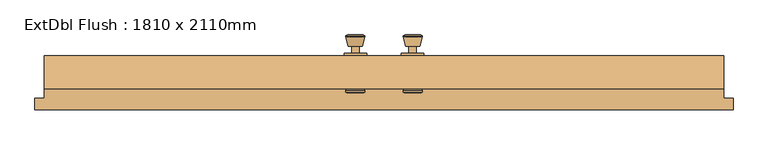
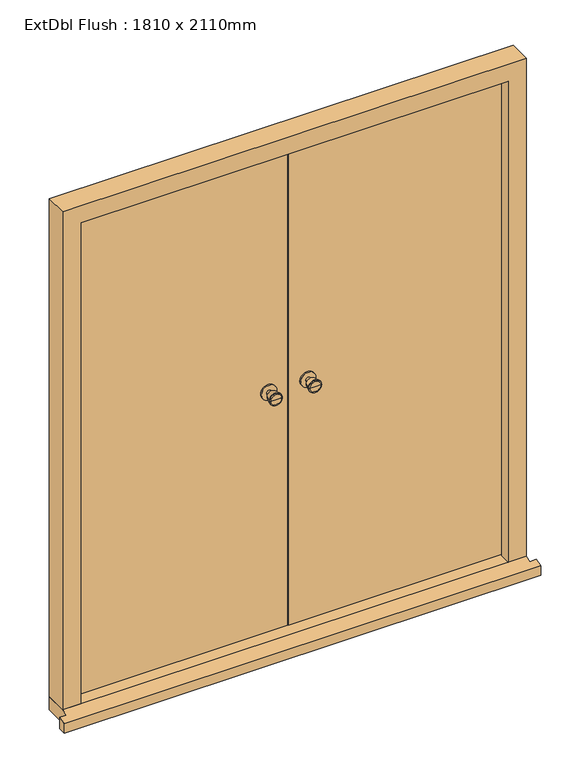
"""IFC4 building model written with IfcOpenShell, lengths in millimetres: door geometry, ExtDbl Flush : 1810 x 2110mm."""

from ifc_helpers import new_model, si_unit, point, frame, frame_2d, origin, place, context, project, spatial, polyline, circle_curve, trimmed, segment, composite_curve, outline, extrude, faceted_brep, source, transform, mapped, element, save
from ifc_brep_helpers import plane_surface, cylinder_surface, revolved_surface, advanced_brep


def extdbl_flush_1810_x_2110mm_182ebfd7(model_context):
    return source(origin(), model_context, "Body", "SolidModel", [
        advanced_brep(
        [(-76.5, 57.5, 1050.0), (-86.5, 57.5, 1050.0), (-66.5, 57.5, 1050.0), (-96.9758676, 106.5, 1050.0), (-76.5, 106.5, 1050.0), (-56.0241324, 106.5, 1050.0), (-101.5, 104.6721319, 1050.0), (-51.5, 104.6721319, 1050.0), (-101.5, 101.2084537, 1050.0), (-51.5, 101.2084537, 1050.0), (-95.136236, 76.5, 1050.0), (-57.863764, 76.5, 1050.0), (-86.5, 76.5, 1050.0), (-66.5, 76.5, 1050.0)],
        [
            (0, 1),
            (1, 2, circle_curve(frame((-76.5, 57.5, 1050.0), z_axis=(0.0, -1.0, 0.0), x_axis=(1.0, 0.0, 0.0)), 10.0)),
            (2, 0),
            (2, 1, circle_curve(frame((-76.5, 57.5, 1050.0), z_axis=(0.0, -1.0, 0.0), x_axis=(1.0, 0.0, 0.0)), 10.0)),
            (3, 4),
            (4, 5),
            (5, 3, circle_curve(frame((-76.5, 106.5, 1050.0), z_axis=(0.0, 1.0, 0.0), x_axis=(1.0, 0.0, 0.0)), 20.4758676)),
            (3, 5, circle_curve(frame((-76.5, 106.5, 1050.0), z_axis=(0.0, 1.0, 0.0), x_axis=(1.0, 0.0, 0.0)), 20.4758676)),
            (6, 3),
            (5, 7),
            (7, 6, circle_curve(frame((-76.5, 104.6721319, 1050.0), z_axis=(0.0, 1.0, 0.0), x_axis=(1.0, 0.0, 0.0)), 25.0)),
            (6, 7, circle_curve(frame((-76.5, 104.6721319, 1050.0), z_axis=(0.0, 1.0, 0.0), x_axis=(1.0, 0.0, 0.0)), 25.0)),
            (8, 6),
            (7, 9),
            (9, 8, circle_curve(frame((-76.5, 101.2084537, 1050.0), z_axis=(0.0, 1.0, 0.0), x_axis=(1.0, 0.0, 0.0)), 25.0)),
            (8, 9, circle_curve(frame((-76.5, 101.2084537, 1050.0), z_axis=(0.0, 1.0, 0.0), x_axis=(1.0, 0.0, 0.0)), 25.0)),
            (10, 8),
            (9, 11),
            (11, 10, circle_curve(frame((-76.5, 76.5, 1050.0), z_axis=(0.0, 1.0, 0.0), x_axis=(1.0, 0.0, 0.0)), 18.636236)),
            (10, 11, circle_curve(frame((-76.5, 76.5, 1050.0), z_axis=(0.0, 1.0, 0.0), x_axis=(1.0, 0.0, 0.0)), 18.636236)),
            (12, 10),
            (11, 13),
            (13, 12, circle_curve(frame((-76.5, 76.5, 1050.0), z_axis=(0.0, 1.0, 0.0), x_axis=(1.0, 0.0, 0.0)), 10.0)),
            (12, 13, circle_curve(frame((-76.5, 76.5, 1050.0), z_axis=(0.0, 1.0, 0.0), x_axis=(1.0, 0.0, 0.0)), 10.0)),
            (1, 12),
            (13, 2),
        ],
        [
            plane_surface(frame((-76.5, 57.5, 1050.0), z_axis=(0.0, -1.0, 0.0), x_axis=(1.0, 0.0, 0.0))),
            plane_surface(frame((-76.5, 106.5, 1050.0), z_axis=(0.0, 1.0, 0.0), x_axis=(1.0, 0.0, 0.0))),
            revolved_surface(polyline([(-56.0241324, 106.5, 1050.0), (-51.5, 104.6721319, 1050.0)]), (-76.5, 57.5, 1050.0), (0.0, -1.0, 0.0)),
            cylinder_surface(frame((-76.5, 57.5, 1050.0), z_axis=(0.0, -1.0, 0.0), x_axis=(1.0, 0.0, 0.0)), 25.0),
            revolved_surface(polyline([(-51.5, 101.2084537, 1050.0), (-57.863764, 76.5, 1050.0)]), (-76.5, 57.5, 1050.0), (0.0, -1.0, 0.0)),
            plane_surface(frame((-76.5, 76.5, 1050.0), z_axis=(0.0, -1.0, 0.0), x_axis=(1.0, 0.0, 0.0))),
            cylinder_surface(frame((-76.5, 57.5, 1050.0), z_axis=(0.0, -1.0, 0.0), x_axis=(1.0, 0.0, 0.0)), 10.0),
        ],
        [
            (0, [[1, 2, 3]]),
            (0, [[-3, 4, -1]]),
            (1, [[5, 6, 7]]),
            (1, [[-6, -5, 8]]),
            (2, [[9, -7, 10, 11]]),
            (2, [[-10, -8, -9, 12]]),
            (3, [[13, -11, 14, 15]]),
            (3, [[-14, -12, -13, 16]]),
            (4, [[17, -15, 18, 19]]),
            (4, [[-18, -16, -17, 20]]),
            (5, [[21, -19, 22, 23]]),
            (5, [[-22, -20, -21, 24]]),
            (6, [[25, -23, 26, -2]]),
            (6, [[-26, -24, -25, -4]]),
        ],
    ),
        extrude(outline(composite_curve([segment(trimmed(circle_curve(frame_2d((1050.0, -76.5)), 30.0), [point((1050.0, -46.5))], [point((1050.0, -106.5))], False, "CARTESIAN"), True, "CONTINUOUS"), segment(trimmed(circle_curve(frame_2d((1050.0, -76.5)), 30.0), [point((1050.0, -106.5))], [point((1050.0, -46.5))], False, "CARTESIAN"), True, "CONTINUOUS")], self_intersect=False)), frame((0.0, 51.5, 0.0), z_axis=(0.0, 1.0, 0.0), x_axis=(0.0, 0.0, 1.0)), (0.0, 0.0, 1.0), 6.0),
        advanced_brep(
        [(-76.5, 1.5, 1050.0), (-66.5, 1.5, 1050.0), (-86.5, 1.5, 1050.0), (-96.9758676, -47.5, 1050.0), (-56.0241324, -47.5, 1050.0), (-76.5, -47.5, 1050.0), (-101.5, -45.6721319, 1050.0), (-51.5, -45.6721319, 1050.0), (-101.5, -42.2084537, 1050.0), (-51.5, -42.2084537, 1050.0), (-95.136236, -17.5, 1050.0), (-57.863764, -17.5, 1050.0), (-86.5, -17.5, 1050.0), (-66.5, -17.5, 1050.0)],
        [
            (0, 1),
            (1, 2, circle_curve(frame((-76.5, 1.5, 1050.0), z_axis=(0.0, 1.0, 0.0), x_axis=(1.0, 0.0, 0.0)), 10.0)),
            (2, 0),
            (2, 1, circle_curve(frame((-76.5, 1.5, 1050.0), z_axis=(0.0, 1.0, 0.0), x_axis=(1.0, 0.0, 0.0)), 10.0)),
            (3, 4, circle_curve(frame((-76.5, -47.5, 1050.0), z_axis=(0.0, -1.0, 0.0), x_axis=(1.0, 0.0, 0.0)), 20.4758676)),
            (4, 5),
            (5, 3),
            (4, 3, circle_curve(frame((-76.5, -47.5, 1050.0), z_axis=(0.0, -1.0, 0.0), x_axis=(1.0, 0.0, 0.0)), 20.4758676)),
            (6, 7, circle_curve(frame((-76.5, -45.6721319, 1050.0), z_axis=(0.0, -1.0, 0.0), x_axis=(1.0, 0.0, 0.0)), 25.0)),
            (7, 4),
            (3, 6),
            (7, 6, circle_curve(frame((-76.5, -45.6721319, 1050.0), z_axis=(0.0, -1.0, 0.0), x_axis=(1.0, 0.0, 0.0)), 25.0)),
            (8, 9, circle_curve(frame((-76.5, -42.2084537, 1050.0), z_axis=(0.0, -1.0, 0.0), x_axis=(1.0, 0.0, 0.0)), 25.0)),
            (9, 7),
            (6, 8),
            (9, 8, circle_curve(frame((-76.5, -42.2084537, 1050.0), z_axis=(0.0, -1.0, 0.0), x_axis=(1.0, 0.0, 0.0)), 25.0)),
            (10, 11, circle_curve(frame((-76.5, -17.5, 1050.0), z_axis=(0.0, -1.0, 0.0), x_axis=(1.0, 0.0, 0.0)), 18.636236)),
            (11, 9),
            (8, 10),
            (11, 10, circle_curve(frame((-76.5, -17.5, 1050.0), z_axis=(0.0, -1.0, 0.0), x_axis=(1.0, 0.0, 0.0)), 18.636236)),
            (12, 13, circle_curve(frame((-76.5, -17.5, 1050.0), z_axis=(0.0, -1.0, 0.0), x_axis=(1.0, 0.0, 0.0)), 10.0)),
            (13, 11),
            (10, 12),
            (13, 12, circle_curve(frame((-76.5, -17.5, 1050.0), z_axis=(0.0, -1.0, 0.0), x_axis=(1.0, 0.0, 0.0)), 10.0)),
            (1, 13),
            (12, 2),
        ],
        [
            plane_surface(frame((-76.5, 1.5, 1050.0), z_axis=(0.0, 1.0, 0.0), x_axis=(1.0, 0.0, 0.0))),
            plane_surface(frame((-76.5, -47.5, 1050.0), z_axis=(0.0, -1.0, 0.0), x_axis=(1.0, 0.0, 0.0))),
            revolved_surface(polyline([(-56.0241324, -47.5, 1050.0), (-51.5, -45.6721319, 1050.0)]), (-76.5, 1.5, 1050.0), (0.0, 1.0, 0.0)),
            cylinder_surface(frame((-76.5, 1.5, 1050.0), z_axis=(0.0, 1.0, 0.0), x_axis=(1.0, 0.0, 0.0)), 25.0),
            revolved_surface(polyline([(-51.5, -42.2084537, 1050.0), (-57.863764, -17.5, 1050.0)]), (-76.5, 1.5, 1050.0), (0.0, 1.0, 0.0)),
            plane_surface(frame((-76.5, -17.5, 1050.0), z_axis=(0.0, 1.0, 0.0), x_axis=(1.0, 0.0, 0.0))),
            cylinder_surface(frame((-76.5, 1.5, 1050.0), z_axis=(0.0, 1.0, 0.0), x_axis=(1.0, 0.0, 0.0)), 10.0),
        ],
        [
            (0, [[1, 2, 3]]),
            (0, [[-3, 4, -1]]),
            (1, [[5, 6, 7]]),
            (1, [[8, -7, -6]]),
            (2, [[9, 10, -5, 11]]),
            (2, [[12, -11, -8, -10]]),
            (3, [[13, 14, -9, 15]]),
            (3, [[16, -15, -12, -14]]),
            (4, [[17, 18, -13, 19]]),
            (4, [[20, -19, -16, -18]]),
            (5, [[21, 22, -17, 23]]),
            (5, [[24, -23, -20, -22]]),
            (6, [[-2, 25, -21, 26]]),
            (6, [[-4, -26, -24, -25]]),
        ],
    ),
        extrude(outline(composite_curve([segment(trimmed(circle_curve(frame_2d((1050.0, -76.5)), 30.0), [point((1050.0, -46.5))], [point((1050.0, -106.5))], False, "CARTESIAN"), True, "CONTINUOUS"), segment(trimmed(circle_curve(frame_2d((1050.0, -76.5)), 30.0), [point((1050.0, -106.5))], [point((1050.0, -46.5))], False, "CARTESIAN"), True, "CONTINUOUS")], self_intersect=False)), frame((0.0, 1.5, 0.0), z_axis=(0.0, 1.0, 0.0), x_axis=(0.0, 0.0, 1.0)), (0.0, 0.0, 1.0), 6.0),
        advanced_brep(
        [(76.5, 57.5, 1050.0), (66.5, 57.5, 1050.0), (86.5, 57.5, 1050.0), (96.9758676, 106.5, 1050.0), (56.0241324, 106.5, 1050.0), (76.5, 106.5, 1050.0), (101.5, 104.6721319, 1050.0), (51.5, 104.6721319, 1050.0), (101.5, 101.2084537, 1050.0), (51.5, 101.2084537, 1050.0), (95.136236, 76.5, 1050.0), (57.863764, 76.5, 1050.0), (86.5, 76.5, 1050.0), (66.5, 76.5, 1050.0)],
        [
            (0, 1),
            (1, 2, circle_curve(frame((76.5, 57.5, 1050.0), z_axis=(0.0, -1.0, 0.0), x_axis=(-1.0, 0.0, 0.0)), 10.0)),
            (2, 0),
            (2, 1, circle_curve(frame((76.5, 57.5, 1050.0), z_axis=(0.0, -1.0, 0.0), x_axis=(-1.0, 0.0, 0.0)), 10.0)),
            (3, 4, circle_curve(frame((76.5, 106.5, 1050.0), z_axis=(0.0, 1.0, 0.0), x_axis=(-1.0, 0.0, 0.0)), 20.4758676)),
            (4, 5),
            (5, 3),
            (4, 3, circle_curve(frame((76.5, 106.5, 1050.0), z_axis=(0.0, 1.0, 0.0), x_axis=(-1.0, 0.0, 0.0)), 20.4758676)),
            (6, 7, circle_curve(frame((76.5, 104.6721319, 1050.0), z_axis=(0.0, 1.0, 0.0), x_axis=(-1.0, 0.0, 0.0)), 25.0)),
            (7, 4),
            (3, 6),
            (7, 6, circle_curve(frame((76.5, 104.6721319, 1050.0), z_axis=(0.0, 1.0, 0.0), x_axis=(-1.0, 0.0, 0.0)), 25.0)),
            (8, 9, circle_curve(frame((76.5, 101.2084537, 1050.0), z_axis=(0.0, 1.0, 0.0), x_axis=(-1.0, 0.0, 0.0)), 25.0)),
            (9, 7),
            (6, 8),
            (9, 8, circle_curve(frame((76.5, 101.2084537, 1050.0), z_axis=(0.0, 1.0, 0.0), x_axis=(-1.0, 0.0, 0.0)), 25.0)),
            (10, 11, circle_curve(frame((76.5, 76.5, 1050.0), z_axis=(0.0, 1.0, 0.0), x_axis=(-1.0, 0.0, 0.0)), 18.636236)),
            (11, 9),
            (8, 10),
            (11, 10, circle_curve(frame((76.5, 76.5, 1050.0), z_axis=(0.0, 1.0, 0.0), x_axis=(-1.0, 0.0, 0.0)), 18.636236)),
            (12, 13, circle_curve(frame((76.5, 76.5, 1050.0), z_axis=(0.0, 1.0, 0.0), x_axis=(-1.0, 0.0, 0.0)), 10.0)),
            (13, 11),
            (10, 12),
            (13, 12, circle_curve(frame((76.5, 76.5, 1050.0), z_axis=(0.0, 1.0, 0.0), x_axis=(-1.0, 0.0, 0.0)), 10.0)),
            (1, 13),
            (12, 2),
        ],
        [
            plane_surface(frame((76.5, 57.5, 1050.0), z_axis=(0.0, -1.0, 0.0), x_axis=(-1.0, 0.0, 0.0))),
            plane_surface(frame((76.5, 106.5, 1050.0), z_axis=(0.0, 1.0, 0.0), x_axis=(-1.0, 0.0, 0.0))),
            revolved_surface(polyline([(56.0241324, 106.5, 1050.0), (51.5, 104.6721319, 1050.0)]), (76.5, 57.5, 1050.0), (0.0, -1.0, 0.0)),
            cylinder_surface(frame((76.5, 57.5, 1050.0), z_axis=(0.0, -1.0, 0.0), x_axis=(-1.0, 0.0, 0.0)), 25.0),
            revolved_surface(polyline([(51.5, 101.2084537, 1050.0), (57.863764, 76.5, 1050.0)]), (76.5, 57.5, 1050.0), (0.0, -1.0, 0.0)),
            plane_surface(frame((76.5, 76.5, 1050.0), z_axis=(0.0, -1.0, 0.0), x_axis=(-1.0, 0.0, 0.0))),
            cylinder_surface(frame((76.5, 57.5, 1050.0), z_axis=(0.0, -1.0, 0.0), x_axis=(-1.0, 0.0, 0.0)), 10.0),
        ],
        [
            (0, [[1, 2, 3]]),
            (0, [[-3, 4, -1]]),
            (1, [[5, 6, 7]]),
            (1, [[8, -7, -6]]),
            (2, [[9, 10, -5, 11]]),
            (2, [[12, -11, -8, -10]]),
            (3, [[13, 14, -9, 15]]),
            (3, [[16, -15, -12, -14]]),
            (4, [[17, 18, -13, 19]]),
            (4, [[20, -19, -16, -18]]),
            (5, [[21, 22, -17, 23]]),
            (5, [[24, -23, -20, -22]]),
            (6, [[-2, 25, -21, 26]]),
            (6, [[-4, -26, -24, -25]]),
        ],
    ),
        extrude(outline(composite_curve([segment(trimmed(circle_curve(frame_2d((1050.0, 76.5)), 30.0), [point((1050.0, 46.5))], [point((1050.0, 106.5))], False, "CARTESIAN"), True, "CONTINUOUS"), segment(trimmed(circle_curve(frame_2d((1050.0, 76.5)), 30.0), [point((1050.0, 106.5))], [point((1050.0, 46.5))], False, "CARTESIAN"), True, "CONTINUOUS")], self_intersect=False)), frame((0.0, 51.5, 0.0), z_axis=(0.0, 1.0, 0.0), x_axis=(0.0, 0.0, 1.0)), (0.0, 0.0, 1.0), 6.0),
        advanced_brep(
        [(76.5, 1.5, 1050.0), (86.5, 1.5, 1050.0), (66.5, 1.5, 1050.0), (96.9758676, -47.5, 1050.0), (76.5, -47.5, 1050.0), (56.0241324, -47.5, 1050.0), (101.5, -45.6721319, 1050.0), (51.5, -45.6721319, 1050.0), (101.5, -42.2084537, 1050.0), (51.5, -42.2084537, 1050.0), (95.136236, -17.5, 1050.0), (57.863764, -17.5, 1050.0), (86.5, -17.5, 1050.0), (66.5, -17.5, 1050.0)],
        [
            (0, 1),
            (1, 2, circle_curve(frame((76.5, 1.5, 1050.0), z_axis=(0.0, 1.0, 0.0), x_axis=(-1.0, 0.0, 0.0)), 10.0)),
            (2, 0),
            (2, 1, circle_curve(frame((76.5, 1.5, 1050.0), z_axis=(0.0, 1.0, 0.0), x_axis=(-1.0, 0.0, 0.0)), 10.0)),
            (3, 4),
            (4, 5),
            (5, 3, circle_curve(frame((76.5, -47.5, 1050.0), z_axis=(0.0, -1.0, 0.0), x_axis=(-1.0, 0.0, 0.0)), 20.4758676)),
            (3, 5, circle_curve(frame((76.5, -47.5, 1050.0), z_axis=(0.0, -1.0, 0.0), x_axis=(-1.0, 0.0, 0.0)), 20.4758676)),
            (6, 3),
            (5, 7),
            (7, 6, circle_curve(frame((76.5, -45.6721319, 1050.0), z_axis=(0.0, -1.0, 0.0), x_axis=(-1.0, 0.0, 0.0)), 25.0)),
            (6, 7, circle_curve(frame((76.5, -45.6721319, 1050.0), z_axis=(0.0, -1.0, 0.0), x_axis=(-1.0, 0.0, 0.0)), 25.0)),
            (8, 6),
            (7, 9),
            (9, 8, circle_curve(frame((76.5, -42.2084537, 1050.0), z_axis=(0.0, -1.0, 0.0), x_axis=(-1.0, 0.0, 0.0)), 25.0)),
            (8, 9, circle_curve(frame((76.5, -42.2084537, 1050.0), z_axis=(0.0, -1.0, 0.0), x_axis=(-1.0, 0.0, 0.0)), 25.0)),
            (10, 8),
            (9, 11),
            (11, 10, circle_curve(frame((76.5, -17.5, 1050.0), z_axis=(0.0, -1.0, 0.0), x_axis=(-1.0, 0.0, 0.0)), 18.636236)),
            (10, 11, circle_curve(frame((76.5, -17.5, 1050.0), z_axis=(0.0, -1.0, 0.0), x_axis=(-1.0, 0.0, 0.0)), 18.636236)),
            (12, 10),
            (11, 13),
            (13, 12, circle_curve(frame((76.5, -17.5, 1050.0), z_axis=(0.0, -1.0, 0.0), x_axis=(-1.0, 0.0, 0.0)), 10.0)),
            (12, 13, circle_curve(frame((76.5, -17.5, 1050.0), z_axis=(0.0, -1.0, 0.0), x_axis=(-1.0, 0.0, 0.0)), 10.0)),
            (1, 12),
            (13, 2),
        ],
        [
            plane_surface(frame((76.5, 1.5, 1050.0), z_axis=(0.0, 1.0, 0.0), x_axis=(-1.0, 0.0, 0.0))),
            plane_surface(frame((76.5, -47.5, 1050.0), z_axis=(0.0, -1.0, 0.0), x_axis=(-1.0, 0.0, 0.0))),
            revolved_surface(polyline([(56.0241324, -47.5, 1050.0), (51.5, -45.6721319, 1050.0)]), (76.5, 1.5, 1050.0), (0.0, 1.0, 0.0)),
            cylinder_surface(frame((76.5, 1.5, 1050.0), z_axis=(0.0, 1.0, 0.0), x_axis=(-1.0, 0.0, 0.0)), 25.0),
            revolved_surface(polyline([(51.5, -42.2084537, 1050.0), (57.863764, -17.5, 1050.0)]), (76.5, 1.5, 1050.0), (0.0, 1.0, 0.0)),
            plane_surface(frame((76.5, -17.5, 1050.0), z_axis=(0.0, 1.0, 0.0), x_axis=(-1.0, 0.0, 0.0))),
            cylinder_surface(frame((76.5, 1.5, 1050.0), z_axis=(0.0, 1.0, 0.0), x_axis=(-1.0, 0.0, 0.0)), 10.0),
        ],
        [
            (0, [[1, 2, 3]]),
            (0, [[-3, 4, -1]]),
            (1, [[5, 6, 7]]),
            (1, [[-6, -5, 8]]),
            (2, [[9, -7, 10, 11]]),
            (2, [[-10, -8, -9, 12]]),
            (3, [[13, -11, 14, 15]]),
            (3, [[-14, -12, -13, 16]]),
            (4, [[17, -15, 18, 19]]),
            (4, [[-18, -16, -17, 20]]),
            (5, [[21, -19, 22, 23]]),
            (5, [[-22, -20, -21, 24]]),
            (6, [[25, -23, 26, -2]]),
            (6, [[-26, -24, -25, -4]]),
        ],
    ),
        extrude(outline(composite_curve([segment(trimmed(circle_curve(frame_2d((1050.0, 76.5)), 30.0), [point((1050.0, 46.5))], [point((1050.0, 106.5))], False, "CARTESIAN"), True, "CONTINUOUS"), segment(trimmed(circle_curve(frame_2d((1050.0, 76.5)), 30.0), [point((1050.0, 106.5))], [point((1050.0, 46.5))], False, "CARTESIAN"), True, "CONTINUOUS")], self_intersect=False)), frame((0.0, 1.5, 0.0), z_axis=(0.0, 1.0, 0.0), x_axis=(0.0, 0.0, 1.0)), (0.0, 0.0, 1.0), 6.0),
        faceted_brep([(834.5, -37.5, 54.5), (834.5, 4.5, 54.5), (856.5, 4.5, 54.5), (856.5, 51.5, 54.5), (905.0, 51.5, 54.5), (905.0, -37.5, 54.5), (905.0, -37.5, 2110.0), (-905.0, -37.5, 2110.0), (-905.0, -37.5, 54.5), (-834.5, -37.5, 54.5), (-834.5, -37.5, 2039.5), (834.5, -37.5, 2039.5), (905.0, 51.5, 2110.0), (856.5, 51.5, 2061.5), (-856.5, 51.5, 2061.5), (-856.5, 51.5, 54.5), (-905.0, 51.5, 54.5), (-905.0, 51.5, 2110.0), (856.5, 4.5, 2061.5), (834.5, 4.5, 2039.5), (-834.5, 4.5, 2039.5), (-834.5, 4.5, 54.5), (-856.5, 4.5, 54.5), (-856.5, 4.5, 2061.5)], [[[0, 1, 2, 3, 4, 5]], [[5, 6, 7, 8, 9, 10, 11, 0]], [[4, 12, 6, 5]], [[3, 13, 14, 15, 16, 17, 12, 4]], [[2, 18, 13, 3]], [[1, 19, 20, 21, 22, 23, 18, 2]], [[0, 11, 19, 1]], [[12, 17, 7, 6]], [[18, 23, 14, 13]], [[11, 10, 20, 19]], [[9, 8, 16, 15, 22, 21]], [[17, 16, 8, 7]], [[23, 22, 15, 14]], [[10, 9, 21, 20]]]),
        faceted_brep([(930.0, -92.5, 0.0), (930.0, -62.5, 0.0), (930.0, -62.5, 47.2703282), (930.0, -92.5, 38.5947221), (-930.0, -92.5, 38.5947221), (-930.0, -62.5, 47.2703282), (-930.0, -62.5, 0.0), (-930.0, -92.5, 0.0), (-905.0, -62.5, 0.0), (-905.0, 51.5, 0.0), (905.0, 51.5, 0.0), (905.0, -62.5, 0.0), (905.0, -62.5, 47.2703282), (905.0, -37.5, 54.5), (-905.0, -37.5, 54.5), (-905.0, -62.5, 47.2703282), (905.0, 51.5, 54.5), (-905.0, 51.5, 54.5)], [[[0, 1, 2, 3]], [[4, 5, 6, 7]], [[7, 6, 8, 9, 10, 11, 1, 0]], [[3, 4, 7, 0]], [[3, 2, 12, 13, 14, 15, 5, 4]], [[14, 13, 16, 17]], [[17, 16, 10, 9]], [[15, 14, 17, 9, 8]], [[8, 6, 5, 15]], [[11, 10, 16, 13, 12]], [[12, 2, 1, 11]]]),
        extrude(outline(polyline([(853.5, 51.5), (853.5, 7.5), (1.5, 7.5), (1.5, 51.5), (853.5, 51.5)])), frame((0.0, 0.0, 58.5), z_axis=(0.0, 0.0, 1.0), x_axis=(1.0, 0.0, 0.0)), (0.0, 0.0, 1.0), 2000.0),
        extrude(outline(polyline([(-1.5, 51.5), (-1.5, 7.5), (-853.5, 7.5), (-853.5, 51.5), (-1.5, 51.5)])), frame((0.0, 0.0, 58.5), z_axis=(0.0, 0.0, 1.0), x_axis=(1.0, 0.0, 0.0)), (0.0, 0.0, 1.0), 2000.0),
    ])


if __name__ == "__main__":
    model = new_model("IFC4")
    model_context = context("Model", 3, world=origin())
    ifc_project = project(units=[si_unit("LENGTHUNIT", "METRE", prefix="MILLI")], contexts=[model_context])
    site = spatial("IfcSite", under=ifc_project)
    building = spatial("IfcBuilding", under=site)
    placement = place(None, origin())
    extdbl_flush_1810_x_2110mm_shape = extdbl_flush_1810_x_2110mm_182ebfd7(model_context)
    element("IfcDoor", 1, ObjectType="ExtDbl Flush : 1810 x 2110mm", at=placement, inside=building, context=model_context, shape_type="MappedRepresentation", body=[
        mapped(extdbl_flush_1810_x_2110mm_shape, transform((0.0, 0.0, 0.0), x_axis=(1.0, 0.0, 0.0), y_axis=(0.0, 1.0, 0.0), z_axis=(0.0, 0.0, 1.0))),
    ])
    save(model, "model.ifc")
